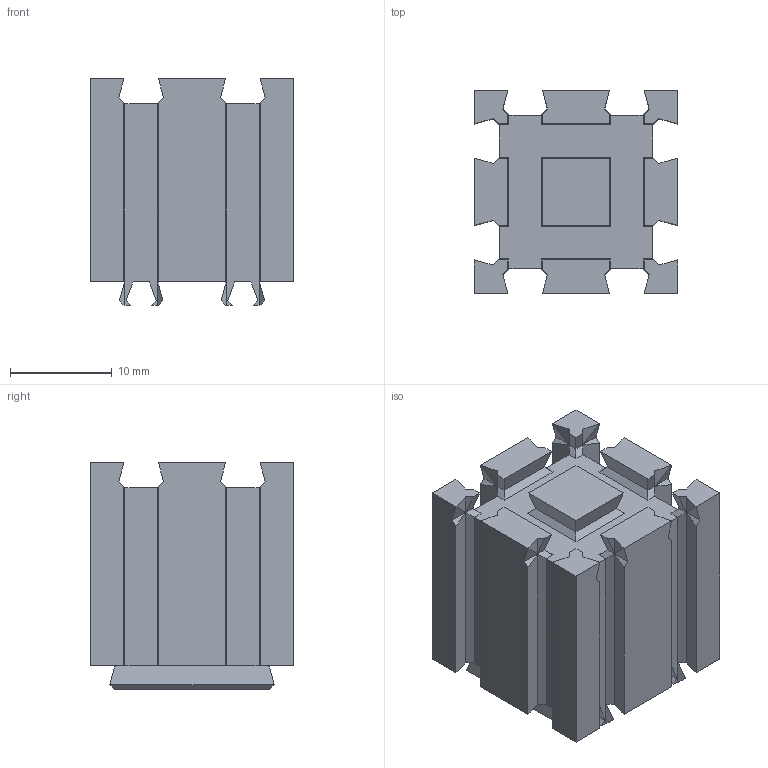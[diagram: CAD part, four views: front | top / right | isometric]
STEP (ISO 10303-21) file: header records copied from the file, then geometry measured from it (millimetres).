
FILE_DESCRIPTION(/* description */ (''),/* implementation_level */ '2;1');
FILE_NAME(/* name */ 'C:/Users/priba/Downloads/Brick2x2x2mf.step',/* time_stamp */ '2020-06-09T22:13:55+02:00',/* author */ (''),/* organization */ (''),/* preprocessor_version */ 'ST-DEVELOPER v18.1',/* originating_system */ 'Autodesk Translation Framework v9.3.0.1241',/* authorisation */ '');
FILE_SCHEMA (('AUTOMOTIVE_DESIGN { 1 0 10303 214 3 1 1 }'));
Length unit declared in the file: millimetre
Products named in the file (2): Brick2x2x2mf; Brick 2x2x2 itself
Assembly tree (1 placements, depth 2):
  Brick2x2x2mf
    Brick 2x2x2 itself
Bounding box: 20 x 20 x 22.31 mm (x, y, z)
Volume: 3193.9 mm3; surface area: 5096.2 mm2
Topology: 1 solids, 9 shells, 346 faces, 812 edges, 484 vertices
Faces by surface type: plane 346
Entity records: 9509 total; most frequent: CARTESIAN_POINT 1645, ORIENTED_EDGE 1624, DIRECTION 1510, LINE 812, VECTOR 812, EDGE_CURVE 812, VERTEX_POINT 484, EDGE_LOOP 352
